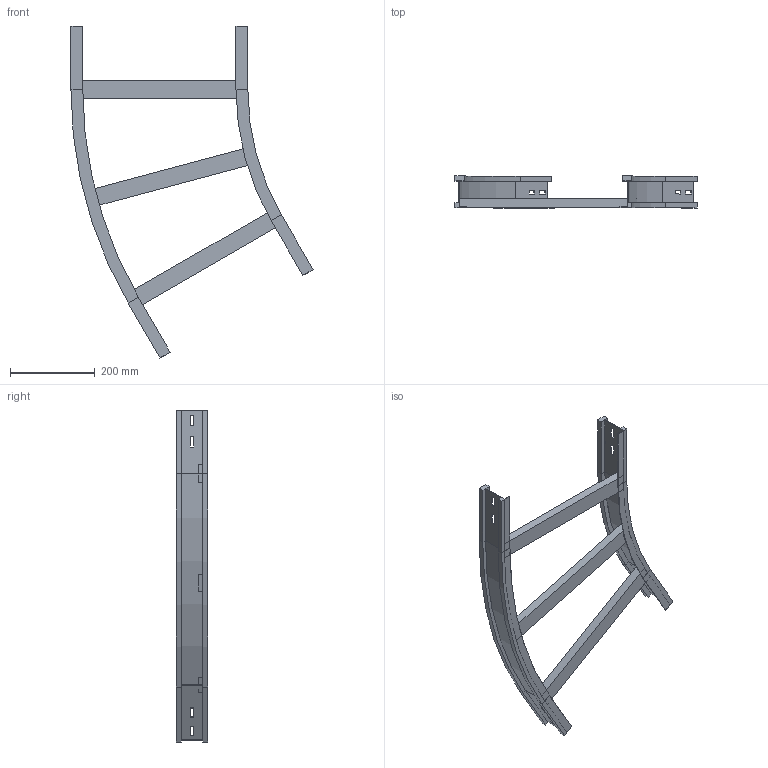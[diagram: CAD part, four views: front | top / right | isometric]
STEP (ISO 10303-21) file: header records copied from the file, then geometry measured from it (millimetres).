
FILE_DESCRIPTION (( 'STEP AP214' ), '1' );
FILE_NAME ('12S6C400.step', '2025-02-21T16:02:35', ( '' ), ( '' ), 'SwSTEP 2.0', 'SolidWorks 2023', '' );
FILE_SCHEMA (( 'AUTOMOTIVE_DESIGN' ));
Length unit declared in the file: millimetre
Products named in the file (4): LONGH.ESTERNO 30°_H75_R600+400; LONGH.INTERNO 30°_H75_R600; TRAVERSINO_400; 12S6C400
Assembly tree (5 placements, depth 2):
  12S6C400
    LONGH.INTERNO 30°_H75_R600
    LONGH.ESTERNO 30°_H75_R600+400
    TRAVERSINO_400  x3
Bounding box: 572.18 x 75 x 784.4 mm (x, y, z)
Volume: 1670465.3 mm3; surface area: 503284.2 mm2
Topology: 5 solids, 5 shells, 126 faces, 300 edges, 184 vertices
Faces by surface type: plane 114, cylinder 12
Entity records: 3389 total; most frequent: CARTESIAN_POINT 566, ORIENTED_EDGE 552, DIRECTION 544, EDGE_CURVE 276, LINE 252, VECTOR 252, VERTEX_POINT 168, AXIS2_PLACEMENT_3D 146
